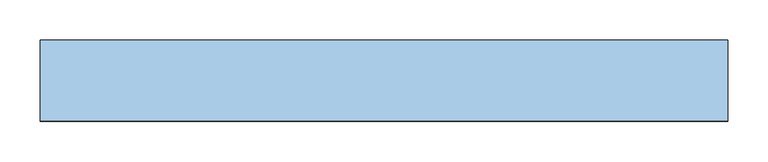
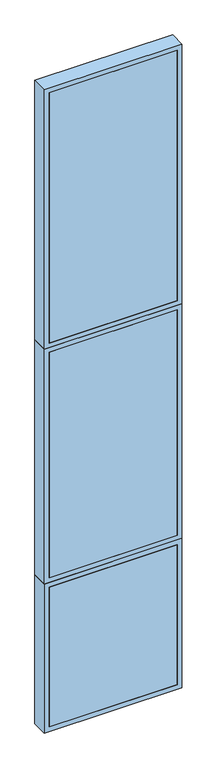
"""IFC4 building model written with IfcOpenShell, lengths in millimetres: window geometry, TRP_CP_ARC_FI_V1 : AL_P02_85_420."""

from ifc_helpers import new_model, si_unit, frame, origin, place, context, project, spatial, polyline, outline, extrude, source, transform, mapped, element, save


def window_26246464(model_context):
    return source(origin(), model_context, "Body", "SweptSolid", [
        extrude(outline(polyline([(395.0, -50.0), (-395.0, -50.0), (-395.0, -30.0), (395.0, -30.0), (395.0, -50.0)])), frame((0.0, 0.0, 30.0), z_axis=(0.0, 0.0, 1.0), x_axis=(1.0, 0.0, 0.0)), (0.0, 0.0, 1.0), 913.0),
        extrude(outline(polyline([(973.0, 425.0), (973.0, -425.0), (0.0, -425.0), (0.0, 425.0), (973.0, 425.0)]), holes=[polyline([(30.0, 395.0), (30.0, -395.0), (943.0, -395.0), (943.0, 395.0), (30.0, 395.0)])]), frame((0.0, -50.0, 0.0), z_axis=(0.0, 1.0, 0.0), x_axis=(0.0, 0.0, 1.0)), (0.0, 0.0, 1.0), 100.0),
        extrude(outline(polyline([(2506.0, 425.0), (2506.0, -425.0), (973.0, -425.0), (973.0, 425.0), (2506.0, 425.0)]), holes=[polyline([(1003.0, 395.0), (1003.0, -395.0), (2476.0, -395.0), (2476.0, 395.0), (1003.0, 395.0)])]), frame((0.0, -50.0, 0.0), z_axis=(0.0, 1.0, 0.0), x_axis=(0.0, 0.0, 1.0)), (0.0, 0.0, 1.0), 100.0),
        extrude(outline(polyline([(395.0, -50.0), (-395.0, -50.0), (-395.0, -30.0), (395.0, -30.0), (395.0, -50.0)])), frame((0.0, 0.0, 1003.0), z_axis=(0.0, 0.0, 1.0), x_axis=(1.0, 0.0, 0.0)), (0.0, 0.0, 1.0), 1473.0),
        extrude(outline(polyline([(4200.0, 425.0), (4200.0, -425.0), (2506.0, -425.0), (2506.0, 425.0), (4200.0, 425.0)]), holes=[polyline([(2536.0, 395.0), (2536.0, -395.0), (4170.0, -395.0), (4170.0, 395.0), (2536.0, 395.0)])]), frame((0.0, -50.0, 0.0), z_axis=(0.0, 1.0, 0.0), x_axis=(0.0, 0.0, 1.0)), (0.0, 0.0, 1.0), 100.0),
        extrude(outline(polyline([(395.0, -50.0), (-395.0, -50.0), (-395.0, -30.0), (395.0, -30.0), (395.0, -50.0)])), frame((0.0, 0.0, 2536.0), z_axis=(0.0, 0.0, 1.0), x_axis=(1.0, 0.0, 0.0)), (0.0, 0.0, 1.0), 1634.0),
    ])


if __name__ == "__main__":
    model = new_model("IFC4")
    model_context = context("Model", 3, world=origin())
    ifc_project = project(units=[si_unit("LENGTHUNIT", "METRE", prefix="MILLI")], contexts=[model_context])
    site = spatial("IfcSite", under=ifc_project)
    building = spatial("IfcBuilding", under=site)
    placement = place(None, origin())
    window_shape = window_26246464(model_context)
    element("IfcWindow", 1, ObjectType="TRP_CP_ARC_FI_V1 : AL_P02_85_420", at=placement, inside=building, context=model_context, shape_type="MappedRepresentation", body=[
        mapped(window_shape, transform((0.0, 0.0, 0.0), x_axis=(1.0, 0.0, 0.0), y_axis=(0.0, 1.0, 0.0), z_axis=(0.0, 0.0, 1.0))),
    ])
    save(model, "model.ifc")
